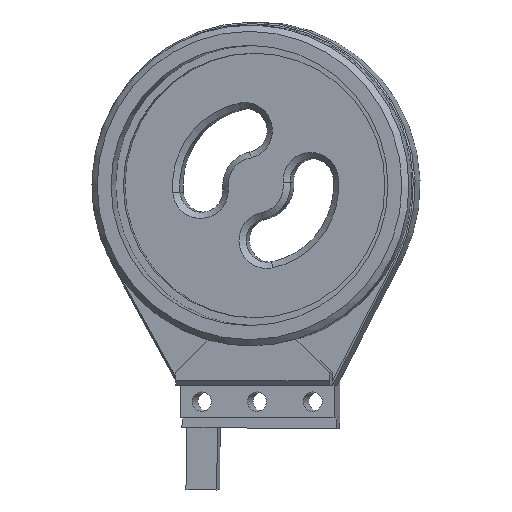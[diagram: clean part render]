
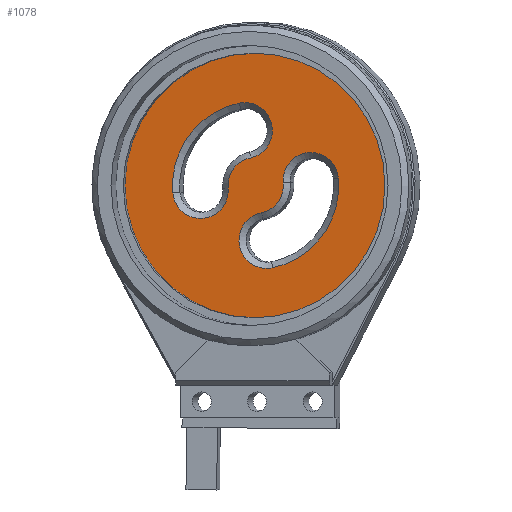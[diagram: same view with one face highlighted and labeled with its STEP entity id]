
A CAD part, left-side view. The second image highlights one B-rep face of the part: STEP entity #1078.
In plain terms, the highlighted planar face has unit normal (-0.988, 0.152, 0).
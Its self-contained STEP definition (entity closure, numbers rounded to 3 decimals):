
#50=FACE_BOUND('',#204,.T.);
#51=FACE_BOUND('',#205,.T.);
#63=CIRCLE('',#1145,42.5);
#67=CIRCLE('',#1159,9.);
#69=CIRCLE('',#1162,9.);
#71=CIRCLE('',#1165,27.);
#73=CIRCLE('',#1168,9.);
#77=CIRCLE('',#1175,9.);
#78=CIRCLE('',#1176,27.);
#79=CIRCLE('',#1177,9.);
#80=CIRCLE('',#1178,9.);
#136=FACE_OUTER_BOUND('',#203,.T.);
#203=EDGE_LOOP('',(#819));
#204=EDGE_LOOP('',(#820,#821,#822,#823));
#205=EDGE_LOOP('',(#824,#825,#826,#827));
#478=VERTEX_POINT('',#1635);
#502=VERTEX_POINT('',#1702);
#503=VERTEX_POINT('',#1704);
#506=VERTEX_POINT('',#1711);
#508=VERTEX_POINT('',#1717);
#512=VERTEX_POINT('',#1735);
#513=VERTEX_POINT('',#1736);
#514=VERTEX_POINT('',#1738);
#515=VERTEX_POINT('',#1740);
#578=EDGE_CURVE('',#478,#478,#63,.T.);
#611=EDGE_CURVE('',#502,#503,#67,.T.);
#615=EDGE_CURVE('',#506,#502,#69,.T.);
#618=EDGE_CURVE('',#508,#506,#71,.T.);
#620=EDGE_CURVE('',#503,#508,#73,.T.);
#627=EDGE_CURVE('',#512,#513,#77,.T.);
#628=EDGE_CURVE('',#514,#512,#78,.T.);
#629=EDGE_CURVE('',#515,#514,#79,.T.);
#630=EDGE_CURVE('',#513,#515,#80,.T.);
#819=ORIENTED_EDGE('',*,*,#578,.T.);
#820=ORIENTED_EDGE('',*,*,#627,.F.);
#821=ORIENTED_EDGE('',*,*,#628,.F.);
#822=ORIENTED_EDGE('',*,*,#629,.F.);
#823=ORIENTED_EDGE('',*,*,#630,.F.);
#824=ORIENTED_EDGE('',*,*,#611,.F.);
#825=ORIENTED_EDGE('',*,*,#615,.F.);
#826=ORIENTED_EDGE('',*,*,#618,.F.);
#827=ORIENTED_EDGE('',*,*,#620,.F.);
#1039=PLANE('',#1174);
#1078=ADVANCED_FACE('',(#136,#50,#51),#1039,.F.);
#1145=AXIS2_PLACEMENT_3D('',#1637,#1294,#1295);
#1159=AXIS2_PLACEMENT_3D('',#1705,#1351,#1352);
#1162=AXIS2_PLACEMENT_3D('',#1713,#1359,#1360);
#1165=AXIS2_PLACEMENT_3D('',#1719,#1366,#1367);
#1168=AXIS2_PLACEMENT_3D('',#1722,#1372,#1373);
#1174=AXIS2_PLACEMENT_3D('',#1734,#1387,#1388);
#1175=AXIS2_PLACEMENT_3D('',#1737,#1389,#1390);
#1176=AXIS2_PLACEMENT_3D('',#1739,#1391,#1392);
#1177=AXIS2_PLACEMENT_3D('',#1741,#1393,#1394);
#1178=AXIS2_PLACEMENT_3D('',#1742,#1395,#1396);
#1294=DIRECTION('center_axis',(-0.988,0.152,0.));
#1295=DIRECTION('ref_axis',(0.152,0.988,0.));
#1351=DIRECTION('center_axis',(0.988,-0.152,0.));
#1352=DIRECTION('ref_axis',(-0.152,-0.984,0.089));
#1359=DIRECTION('center_axis',(-0.988,0.152,0.));
#1360=DIRECTION('ref_axis',(0.152,0.984,-0.089));
#1366=DIRECTION('center_axis',(-0.988,0.152,0.));
#1367=DIRECTION('ref_axis',(-0.152,-0.984,0.089));
#1372=DIRECTION('center_axis',(-0.988,0.152,0.));
#1373=DIRECTION('ref_axis',(-0.03,-0.196,-0.98));
#1387=DIRECTION('center_axis',(0.988,-0.152,0.));
#1388=DIRECTION('ref_axis',(0.152,0.988,0.));
#1389=DIRECTION('center_axis',(-0.988,0.152,0.));
#1390=DIRECTION('ref_axis',(0.152,0.984,-0.089));
#1391=DIRECTION('center_axis',(-0.988,0.152,0.));
#1392=DIRECTION('ref_axis',(0.152,0.984,-0.089));
#1393=DIRECTION('center_axis',(-0.988,0.152,0.));
#1394=DIRECTION('ref_axis',(0.03,0.196,0.98));
#1395=DIRECTION('center_axis',(0.988,-0.152,0.));
#1396=DIRECTION('ref_axis',(0.152,0.984,-0.089));
#1635=CARTESIAN_POINT('',(34.148,-47.603,141.15));
#1637=CARTESIAN_POINT('Origin',(40.621,-5.599,141.15));
#1702=CARTESIAN_POINT('',(39.258,-14.441,141.961));
#1704=CARTESIAN_POINT('',(40.351,-7.349,132.343));
#1705=CARTESIAN_POINT('Origin',(40.624,-5.581,141.163));
#1711=CARTESIAN_POINT('',(36.527,-32.161,143.557));
#1713=CARTESIAN_POINT('Origin',(37.893,-23.301,142.759));
#1717=CARTESIAN_POINT('',(39.806,-10.886,114.702));
#1719=CARTESIAN_POINT('Origin',(40.624,-5.581,141.163));
#1722=CARTESIAN_POINT('Origin',(40.079,-9.117,123.522));
#1734=CARTESIAN_POINT('Origin',(40.621,-5.599,128.327));
#1735=CARTESIAN_POINT('',(44.718,20.981,138.757));
#1736=CARTESIAN_POINT('',(41.987,3.261,140.352));
#1737=CARTESIAN_POINT('Origin',(43.352,12.121,139.554));
#1738=CARTESIAN_POINT('',(41.439,-0.295,167.611));
#1739=CARTESIAN_POINT('Origin',(40.621,-5.599,141.15));
#1740=CARTESIAN_POINT('',(40.894,-3.831,149.97));
#1741=CARTESIAN_POINT('Origin',(41.166,-2.063,158.791));
#1742=CARTESIAN_POINT('Origin',(40.621,-5.599,141.15));
